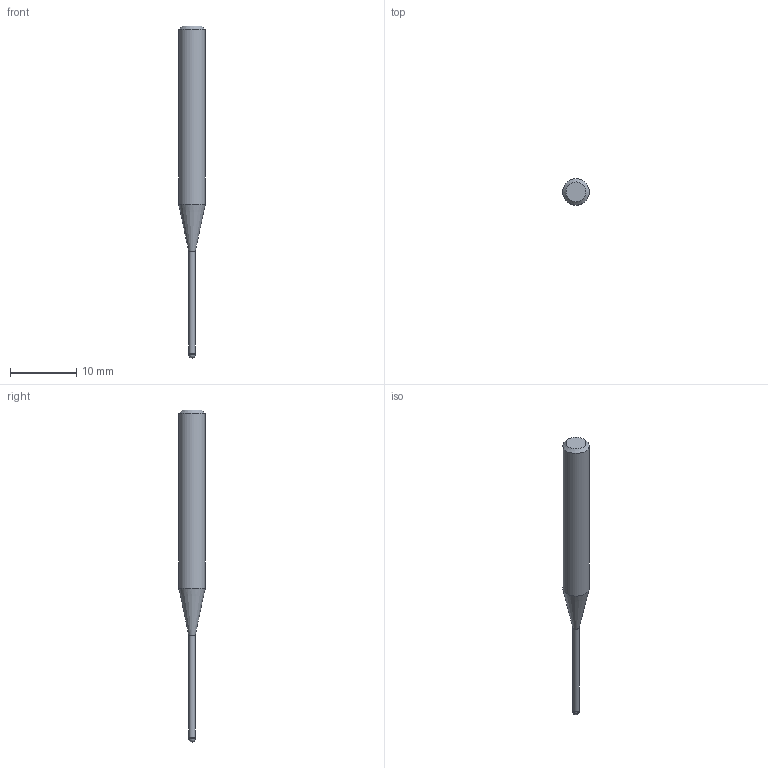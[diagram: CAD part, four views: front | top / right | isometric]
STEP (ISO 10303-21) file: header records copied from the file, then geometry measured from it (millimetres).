
FILE_DESCRIPTION((''),'2;1');
FILE_NAME('C:\Users\nsx150\AppData\Local\Temp\Mastercam 2021\ARV7HD45SN\TEMP.step','2023-06-13T16:35:48',(''),(''),'STEP Write','Mastercam 2021 ... CNC Software, Inc.','');
FILE_SCHEMA(('AUTOMOTIVE_DESIGN'));
Length unit declared in the file: millimetre
Products named in the file (1): None
Bounding box: 4 x 4 x 50 mm (x, y, z)
Volume: 385.8 mm3; surface area: 452.1 mm2
Topology: 2 solids, 2 shells, 9 faces, 14 edges, 8 vertices
Faces by surface type: plane 3, cylinder 3, cone 2, sphere 1
Full cylindrical faces by diameter (mm): 0.95 x1, 1 x1, 4 x1
Entity records: 211 total; most frequent: DIRECTION 36, CARTESIAN_POINT 25, AXIS2_PLACEMENT_3D 18, ORIENTED_EDGE 14, EDGE_LOOP 14, STYLED_ITEM 12, ADVANCED_FACE 9, FACE_BOUND 8
